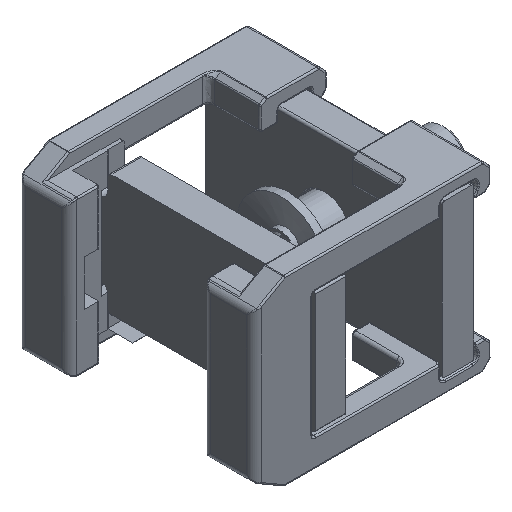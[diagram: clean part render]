
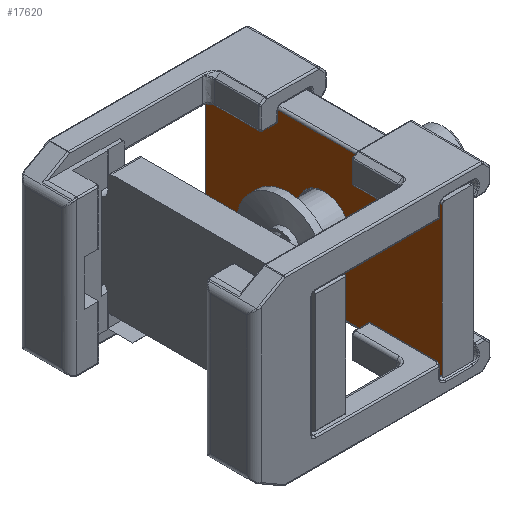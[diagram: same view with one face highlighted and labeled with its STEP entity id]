
A CAD part, isometric view. The second image highlights one B-rep face of the part: STEP entity #17620.
In plain terms, the highlighted planar face has unit normal (-1, 0, 0).
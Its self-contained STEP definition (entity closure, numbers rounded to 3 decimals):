
#95 = LINE ( 'NONE', #29682, #22628 ) ;
#486 = PLANE ( 'NONE',  #11221 ) ;
#629 = CARTESIAN_POINT ( 'NONE',  ( 62., -14.866, -56.196 ) ) ;
#1415 = DIRECTION ( 'NONE',  ( 1., 0., 0. ) ) ;
#2717 = EDGE_CURVE ( 'NONE', #36461, #36461, #26805, .T. ) ;
#3512 = FACE_BOUND ( 'NONE', #4310, .T. ) ;
#4175 = LINE ( 'NONE', #10073, #34612 ) ;
#4310 = EDGE_LOOP ( 'NONE', ( #10816 ) ) ;
#4326 = DIRECTION ( 'NONE',  ( 0., 0., 1. ) ) ;
#4571 = EDGE_CURVE ( 'NONE', #34559, #27606, #19158, .T. ) ;
#6482 = DIRECTION ( 'NONE',  ( 0., 0., 1. ) ) ;
#7007 = DIRECTION ( 'NONE',  ( 0., -1., 0. ) ) ;
#7137 = VERTEX_POINT ( 'NONE', #29538 ) ;
#7660 = VECTOR ( 'NONE', #36326, 1000. ) ;
#10073 = CARTESIAN_POINT ( 'NONE',  ( 62., 48.134, -56.196 ) ) ;
#10128 = EDGE_CURVE ( 'NONE', #27606, #22302, #4175, .T. ) ;
#10707 = AXIS2_PLACEMENT_3D ( 'NONE', #16072, #1415, #4326 ) ;
#10816 = ORIENTED_EDGE ( 'NONE', *, *, #2717, .T. ) ;
#11221 = AXIS2_PLACEMENT_3D ( 'NONE', #17967, #27246, #6482 ) ;
#11716 = ORIENTED_EDGE ( 'NONE', *, *, #10128, .T. ) ;
#13598 = FACE_OUTER_BOUND ( 'NONE', #22416, .T. ) ;
#14982 = DIRECTION ( 'NONE',  ( 0., 0., 1. ) ) ;
#16072 = CARTESIAN_POINT ( 'NONE',  ( 62., 24.134, -31.696 ) ) ;
#17313 = VECTOR ( 'NONE', #17655, 1000. ) ;
#17620 = ADVANCED_FACE ( 'NONE', ( #13598, #3512 ), #486, .T. ) ;
#17655 = DIRECTION ( 'NONE',  ( 0., 0., -1. ) ) ;
#17967 = CARTESIAN_POINT ( 'NONE',  ( 62., 48.134, -6.196 ) ) ;
#19141 = CARTESIAN_POINT ( 'NONE',  ( 62., 24.134, -22.946 ) ) ;
#19158 = LINE ( 'NONE', #26428, #17313 ) ;
#19931 = CARTESIAN_POINT ( 'NONE',  ( 62., 63.134, -7.196 ) ) ;
#22302 = VERTEX_POINT ( 'NONE', #629 ) ;
#22416 = EDGE_LOOP ( 'NONE', ( #23294, #34792, #24222, #11716 ) ) ;
#22628 = VECTOR ( 'NONE', #14982, 1000. ) ;
#22893 = EDGE_CURVE ( 'NONE', #22302, #7137, #95, .T. ) ;
#23294 = ORIENTED_EDGE ( 'NONE', *, *, #22893, .T. ) ;
#24222 = ORIENTED_EDGE ( 'NONE', *, *, #4571, .T. ) ;
#26428 = CARTESIAN_POINT ( 'NONE',  ( 62., 63.134, -6.196 ) ) ;
#26805 = CIRCLE ( 'NONE', #10707, 8.75 ) ;
#27246 = DIRECTION ( 'NONE',  ( -1., 0., 0. ) ) ;
#27421 = EDGE_CURVE ( 'NONE', #7137, #34559, #34907, .T. ) ;
#27606 = VERTEX_POINT ( 'NONE', #27940 ) ;
#27940 = CARTESIAN_POINT ( 'NONE',  ( 62., 63.134, -56.196 ) ) ;
#29538 = CARTESIAN_POINT ( 'NONE',  ( 62., -14.866, -7.196 ) ) ;
#29682 = CARTESIAN_POINT ( 'NONE',  ( 62., -14.866, -6.196 ) ) ;
#30659 = CARTESIAN_POINT ( 'NONE',  ( 62., 48.134, -7.196 ) ) ;
#34559 = VERTEX_POINT ( 'NONE', #19931 ) ;
#34612 = VECTOR ( 'NONE', #7007, 1000. ) ;
#34792 = ORIENTED_EDGE ( 'NONE', *, *, #27421, .T. ) ;
#34907 = LINE ( 'NONE', #30659, #7660 ) ;
#36326 = DIRECTION ( 'NONE',  ( 0., 1., 0. ) ) ;
#36461 = VERTEX_POINT ( 'NONE', #19141 ) ;
